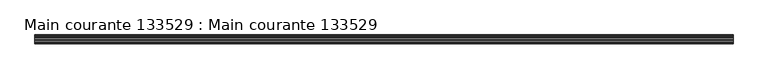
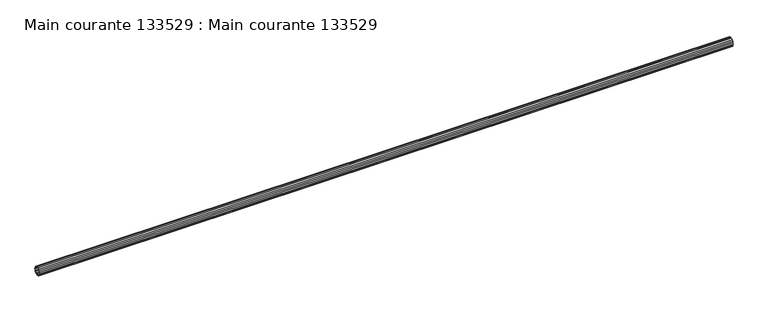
"""IFC4 building model written with IfcOpenShell, lengths in millimetres: beam geometry, Main courante 133529 : Main courante 133529."""

import ifcopenshell
import ifcopenshell.guid

model = None  # the IFC model being written
_history = None  # IfcOwnerHistory: only IFC2X3 demands one
_inside = {}  # id of a spatial element -> (the spatial element, [elements in it])
_under = {}  # id of a project, library or spatial element -> (it, [spatial elements below it])
_declared = {}  # id of a project -> (the project, [libraries it declares])
_typed = {}  # id of a type object -> (the type object, [elements of that type])
_made_of = {}  # id of a material, layer set ... -> (it, [elements and type objects made of it])


def new_model(schema):
    """Start an empty IFC model of exactly this schema.

    Asked for "IFC4X3", IfcOpenShell would pick the latest addendum, in which some entities
    have other attributes; the version numbers below select the first issue.
    IFC2X3 requires an IfcOwnerHistory on every rooted entity: one is made here for all.
    """
    global model, _history
    if schema == "IFC4X3":
        model = ifcopenshell.file(schema_version=(4, 3, 0, 0))
    else:
        model = ifcopenshell.file(schema=schema)
    _inside.clear()
    _under.clear()
    _declared.clear()
    _typed.clear()
    _made_of.clear()
    _history = None
    if model.schema == "IFC2X3":
        org = make("IfcOrganization", Name="unknown")
        user = make(
            "IfcPersonAndOrganization",
            ThePerson=make("IfcPerson", FamilyName="unknown"),
            TheOrganization=org,
        )
        app = make(
            "IfcApplication",
            ApplicationDeveloper=org,
            Version="unknown",
            ApplicationFullName="unknown",
            ApplicationIdentifier="unknown",
        )
        _history = make(
            "IfcOwnerHistory",
            OwningUser=user,
            OwningApplication=app,
            ChangeAction="ADDED",
            CreationDate=0,
        )
    return model


def make(cls, **values):
    """One entity of the class cls with the attributes given. An attribute that is None is left unset."""
    return model.create_entity(
        cls, **{name: value for name, value in values.items() if value is not None}
    )


def rooted(cls, **values):
    """An entity with a GlobalId (a new one), such as an element, a storey or a relation."""
    return make(cls, GlobalId=ifcopenshell.guid.new(), OwnerHistory=_history, **values)


def si_unit(unit_type, name, prefix=None):
    """IfcSIUnit, for example si_unit("LENGTHUNIT", "METRE", prefix="MILLI")."""
    return make("IfcSIUnit", UnitType=unit_type, Prefix=prefix, Name=name)


def assignment(units):
    """IfcUnitAssignment: the units of a project."""
    return None if units is None else make("IfcUnitAssignment", Units=units)


def point(xyz):
    """IfcCartesianPoint."""
    return None if xyz is None else make("IfcCartesianPoint", Coordinates=xyz)


def direction(xyz):
    """IfcDirection."""
    return None if xyz is None else make("IfcDirection", DirectionRatios=xyz)


def frame(location, z_axis=None, x_axis=None):
    """IfcAxis2Placement3D, a coordinate frame: its origin and axes. An axis left out is left unset."""
    return make(
        "IfcAxis2Placement3D",
        Location=point(location),
        Axis=direction(z_axis),
        RefDirection=direction(x_axis),
    )


def origin():
    """The frame at (0, 0, 0) with its axes left unset."""
    return frame((0.0, 0.0, 0.0))


def place(relative_to, where):
    """IfcLocalPlacement: puts the frame where relative to a parent placement (None: the world)."""
    return make(
        "IfcLocalPlacement", PlacementRelTo=relative_to, RelativePlacement=where
    )


def context(
    kind, dimensions, precision=None, world=None, true_north=None, identifier=None
):
    """IfcGeometricRepresentationContext, for example the 3D "Model" context."""
    return make(
        "IfcGeometricRepresentationContext",
        ContextIdentifier=identifier,
        ContextType=kind,
        CoordinateSpaceDimension=dimensions,
        Precision=precision,
        WorldCoordinateSystem=world,
        TrueNorth=true_north,
    )


def project(units=None, contexts=None):
    """IfcProject with its units and contexts."""
    return rooted(
        "IfcProject",
        Name="project",
        RepresentationContexts=contexts,
        UnitsInContext=assignment(units),
    )


def spatial(cls, under=None, at=None, **own):
    """A site, building, storey or space (cls), placed at a placement, below another one or the project."""
    s = rooted(cls, ObjectPlacement=at, **own)
    if under is not None:
        _under.setdefault(under.id(), (under, []))[1].append(s)
    return s


def polyline(points):
    """IfcPolyline through the points."""
    return make("IfcPolyline", Points=[point(p) for p in points])


def outline(outer, holes=None, kind="AREA"):
    """IfcArbitraryClosedProfileDef: a profile drawn as a closed curve; with holes, ...WithVoids."""
    if holes is None:
        return make("IfcArbitraryClosedProfileDef", ProfileType=kind, OuterCurve=outer)
    return make(
        "IfcArbitraryProfileDefWithVoids",
        ProfileType=kind,
        OuterCurve=outer,
        InnerCurves=holes,
    )


def extrude(swept, where, along, depth):
    """IfcExtrudedAreaSolid: the profile swept, set in the frame where, extruded along a direction by depth."""
    return make(
        "IfcExtrudedAreaSolid",
        SweptArea=swept,
        Position=where,
        ExtrudedDirection=direction(along),
        Depth=depth,
    )


def shape(context_of_items, identifier, shape_type, items):
    """IfcShapeRepresentation: the items that make up one representation, for example the "Body"."""
    return make(
        "IfcShapeRepresentation",
        ContextOfItems=context_of_items,
        RepresentationIdentifier=identifier,
        RepresentationType=shape_type,
        Items=items,
    )


def source(mapping_origin, context_of_items, identifier, shape_type, items):
    """IfcRepresentationMap: a shape defined once, which mapped items show again and again."""
    return make(
        "IfcRepresentationMap",
        MappingOrigin=mapping_origin,
        MappedRepresentation=shape(context_of_items, identifier, shape_type, items),
    )


def transform(
    local_origin,
    x_axis=None,
    y_axis=None,
    z_axis=None,
    scale=None,
    scale2=None,
    scale3=None,
    uniform=True,
):
    """IfcCartesianTransformationOperator3D, or its non-uniform kind. x_axis, y_axis, z_axis: its Axis1, 2, 3."""
    if uniform:
        return make(
            "IfcCartesianTransformationOperator3D",
            Axis1=direction(x_axis),
            Axis2=direction(y_axis),
            LocalOrigin=point(local_origin),
            Scale=scale,
            Axis3=direction(z_axis),
        )
    return make(
        "IfcCartesianTransformationOperator3DnonUniform",
        Axis1=direction(x_axis),
        Axis2=direction(y_axis),
        LocalOrigin=point(local_origin),
        Scale=scale,
        Axis3=direction(z_axis),
        Scale2=scale2,
        Scale3=scale3,
    )


def mapped(mapping_source, mapping_target):
    """IfcMappedItem: shows the shape of a source again, moved by a transform."""
    return make(
        "IfcMappedItem", MappingSource=mapping_source, MappingTarget=mapping_target
    )


def made_of(thing, what):
    """Note that an element or type object is made of a material, layer set ...; save() writes the relation."""
    if what is not None:
        _made_of.setdefault(what.id(), (what, []))[1].append(thing)
    return thing


def element(
    cls,
    number,
    at=None,
    inside=None,
    cuts=None,
    type_object=None,
    material=None,
    context=None,
    identifier="Body",
    shape_type=None,
    held_by="IfcProductDefinitionShape",
    body=None,
    shapes=None,
    **own,
):
    """One element of the class cls, such as IfcWall. Its Tag is "e" and its number.

    at: its placement. inside: the storey or other place that contains it. cuts: it is an
    opening in that element (IfcRelVoidsElement). A single representation is given by context,
    identifier, shape_type and body (its items); several are given by shapes. held_by: the class
    of the entity that holds the representations. save() writes the other relations.
    """
    e = rooted(cls, Tag="e%d" % number, ObjectPlacement=at, **own)
    if body is not None:
        shapes = [shape(context, identifier, shape_type, body)]
    if shapes is not None:
        e.Representation = make(held_by, Representations=shapes)
    if inside is not None:
        _inside.setdefault(inside.id(), (inside, []))[1].append(e)
    if cuts is not None:
        rooted(
            "IfcRelVoidsElement", RelatingBuildingElement=cuts, RelatedOpeningElement=e
        )
    if type_object is not None:
        _typed.setdefault(type_object.id(), (type_object, []))[1].append(e)
    return made_of(e, material)


def aggregate(whole, parts):
    """IfcRelAggregates: a whole, such as a stair, and the parts it consists of."""
    return rooted("IfcRelAggregates", RelatingObject=whole, RelatedObjects=parts)


def save(model, path):
    """Write the relations noted so far, then the file.

    IfcRelAggregates (storeys below a building ...), IfcRelContainedInSpatialStructure (elements
    in a storey), IfcRelDefinesByType, IfcRelAssociatesMaterial and IfcRelDeclares: one each for
    every whole, place, type object, material and project.
    """
    for whole, parts in _under.values():
        aggregate(whole, parts)
    for where, things in _inside.values():
        rooted(
            "IfcRelContainedInSpatialStructure",
            RelatedElements=things,
            RelatingStructure=where,
        )
    for kind, things in _typed.values():
        rooted("IfcRelDefinesByType", RelatedObjects=things, RelatingType=kind)
    for what, things in _made_of.values():
        rooted("IfcRelAssociatesMaterial", RelatedObjects=things, RelatingMaterial=what)
    for by, libraries in _declared.values():
        rooted("IfcRelDeclares", RelatingContext=by, RelatedDefinitions=libraries)
    model.write(path)


def main_courante_133529_main_courante_133529_69ff0020(model_context):
    return source(origin(), model_context, "Body", "SweptSolid", [
        extrude(outline(polyline([(-35749.8127604, 9262.9680149), (-35742.35, 9264.15), (-35734.8872396, 9262.9680149), (-35728.1549862, 9259.5377604), (-35722.8122396, 9254.1950138), (-35719.3819851, 9247.4627604), (-35718.2, 9240.0), (-35719.3819851, 9232.5372396), (-35722.8122396, 9225.8049862), (-35728.1549862, 9220.4622396), (-35734.8872396, 9217.0319851), (-35742.35, 9215.85), (-35749.8127604, 9217.0319851), (-35756.5450138, 9220.4622396), (-35761.8877604, 9225.8049862), (-35765.3180149, 9232.5372396), (-35766.5, 9240.0), (-35765.3180149, 9247.4627604), (-35761.8877604, 9254.1950138), (-35756.5450138, 9259.5377604), (-35749.8127604, 9262.9680149)]), holes=[polyline([(-35720.7, 9240.0), (-35721.7596264, 9246.6902179), (-35724.8347821, 9252.7255507), (-35729.6244493, 9257.5152179), (-35735.6597821, 9260.5903736), (-35742.35, 9261.65), (-35749.0402179, 9260.5903736), (-35755.0755507, 9257.5152179), (-35759.8652179, 9252.7255507), (-35762.9403736, 9246.6902179), (-35764.0, 9240.0), (-35762.9403736, 9233.3097821), (-35759.8652179, 9227.2744493), (-35755.0755507, 9222.4847821), (-35749.0402179, 9219.4096264), (-35742.35, 9218.35), (-35735.6597821, 9219.4096264), (-35729.6244493, 9222.4847821), (-35724.8347821, 9227.2744493), (-35721.7596264, 9233.3097821), (-35720.7, 9240.0)])]), frame((3742.4999999, 0.0, 0.0), z_axis=(1.0, 0.0, 0.0), x_axis=(0.0, 1.0, 0.0)), (0.0, 0.0, 1.0), 3832.5),
    ])


if __name__ == "__main__":
    model = new_model("IFC4")
    model_context = context("Model", 3, world=origin())
    ifc_project = project(units=[si_unit("LENGTHUNIT", "METRE", prefix="MILLI")], contexts=[model_context])
    site = spatial("IfcSite", under=ifc_project)
    building = spatial("IfcBuilding", under=site)
    placement = place(None, origin())
    main_courante_133529_main_courante_133529_shape = main_courante_133529_main_courante_133529_69ff0020(model_context)
    element("IfcBeam", 1, ObjectType="Main courante 133529 : Main courante 133529", at=placement, inside=building, context=model_context, shape_type="MappedRepresentation", body=[
        mapped(main_courante_133529_main_courante_133529_shape, transform((0.0, 0.0, 0.0), x_axis=(1.0, 0.0, 0.0), y_axis=(0.0, 1.0, 0.0), z_axis=(0.0, 0.0, 1.0))),
    ])
    save(model, "model.ifc")
